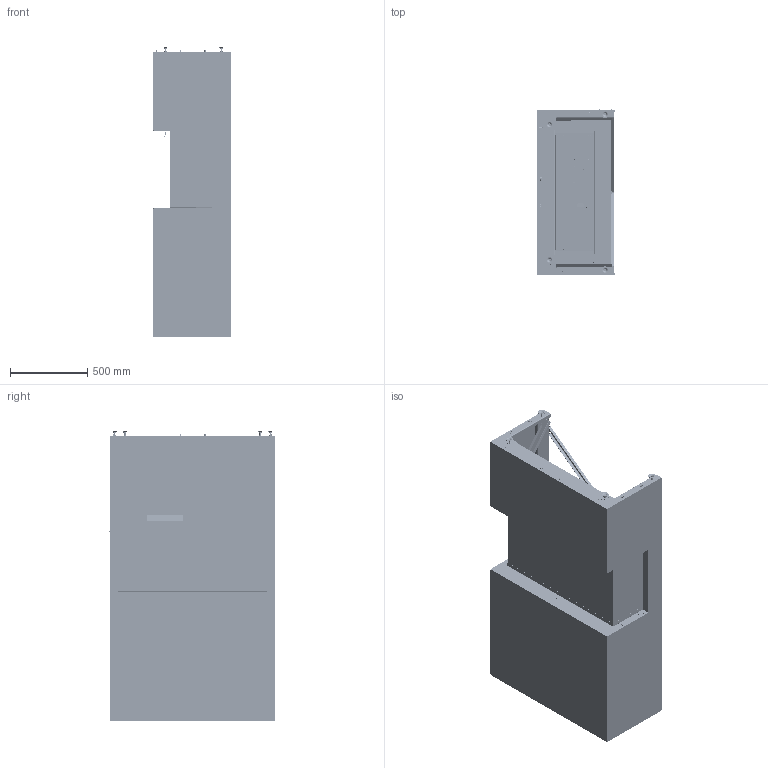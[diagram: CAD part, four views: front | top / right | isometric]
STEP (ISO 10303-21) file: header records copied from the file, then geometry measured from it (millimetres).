
FILE_DESCRIPTION (( 'STEP AP214' ), '1' );
FILE_NAME ('3d_Stone.STEP', '2022-10-03T07:38:29', ( '' ), ( '' ), 'SwSTEP 2.0', 'SolidWorks 2019', '' );
FILE_SCHEMA (( 'AUTOMOTIVE_DESIGN' ));
Length unit declared in the file: millimetre
Products named in the file (88): 000111727; 000-049-326_000-049-326-790; 000111485_000111485_G; 000111468_000111468; 000-049-284; 000111567_000111567_G_SPIEK; 000112394; 000112106; 000111903; 000111566_ 000111566_G; 000111470_000111470_790_P; 000111765; 000111592; 000112126_000112126_BP; 000088403; 000112020; 000-049-331; 000112107; 000111456_000111456_790; 000112046; 000111863_000111863_F; 000111867; 000111863_000111863_B; 000112105; 000111757; 000111558; Ko³ek gwintowany do zgrzewania_ISO 13918 M4x10; 000111469; 000112684; 000111869; 000-049-609; 000111325; 000111983; 000111567_000111567_D; 000111470_000111470_790_T; 000112563; 000111550_000111550_G; 000-049-610; 000111750; 000111751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
Assembly tree (170 placements, depth 4):
  3d_Stone
    000111469
      000111468_000111468
        000111456_000111456_790
        Ko³ek gwintowany do zgrzewania_ISO 13918 M4x10  x38
        welded_stud_ISO-13918-PT - M6 x 20 (A2)  x5
        000111874  x2
      000-049-610
      000-049-609
      000-049-326_000-049-326-790
      000-050-969_000-050-969-790  x2
      000-049-331
      000-049-434
      000111470_000111470_790_T
      000111470_000111470_790_P
      000-049-284
      000111481_000111481_D  x2
      000111485_000111485_D
      000111500_000111500
      000111587_000111587
        000111585
      000111588_000111588_790
      Œruba M3x30
      PZ-FLA3XT-0003
      Nitonakrêtka M4 niezaciœniêta
      000111592  x2
      000111550_000111550_D
      000111770
      000111836  x4
      000112035
      000112038
        000111678
        Ko³ek gwintowany do zgrzewania_ISO 13918 M4x10  x2
      000088403
      ok1271-08  x4
      000112394
    000111530
    000111518
    000111550_000111550_G
    000111567_000111567_D
      000111566_000111566_D
      000111999_000111999_B_S
    000111727  x4
    000111558  x4
    000111730
    000111695
    000111506_000111506_N  x2
    000111750
    000111754
    000111757  x2
    000111756
    000111763
    000111764
    000111765
    000111766
    000111767
    000111567_000111567_G_SPIEK
      000111566_ 000111566_G
      000111999_000111999_B_S
      000112697_000111999_B_S
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Bounding box: 501.41 x 1077 x 1880 mm (x, y, z)
Volume: 69975528.5 mm3; surface area: 22912762.2 mm2
Topology: 205 solids, 205 shells, 7624 faces, 18660 edges, 11736 vertices
Faces by surface type: plane 3810, cylinder 3123, cone 465, torus 146, bspline 80
Entity records: 186678 total; most frequent: CARTESIAN_POINT 34442, DIRECTION 31786, ORIENTED_EDGE 29416, EDGE_CURVE 14708, AXIS2_PLACEMENT_3D 11362, VERTEX_POINT 9318, LINE 9062, VECTOR 9062
